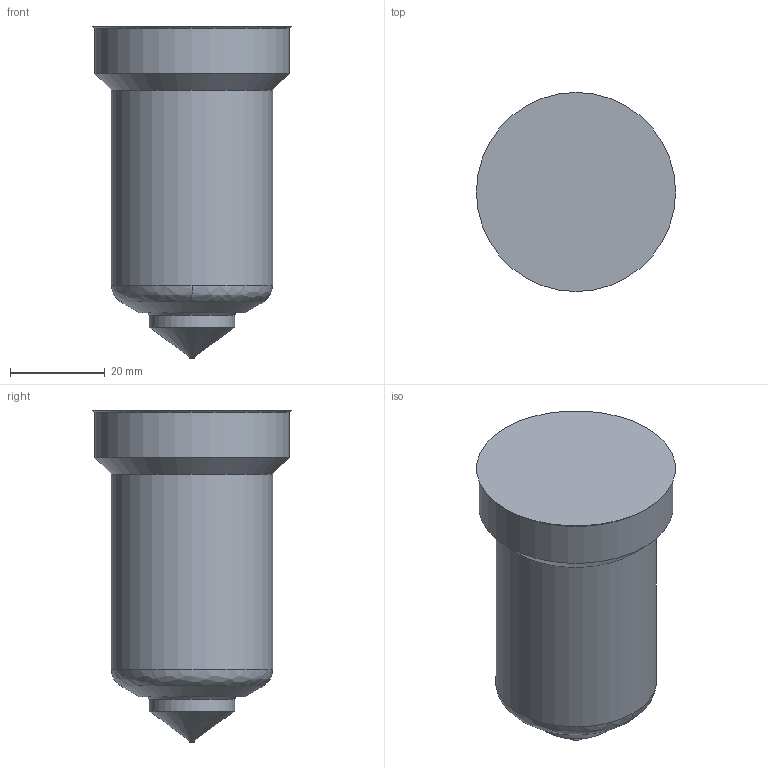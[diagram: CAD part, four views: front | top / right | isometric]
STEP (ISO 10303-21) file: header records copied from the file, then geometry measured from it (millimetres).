
FILE_DESCRIPTION(('STEP AP214'),'1');
FILE_NAME('SEDE FLM7-A.stp','2018-06-12T09:01:18',(' '),(' '),'Spatial InterOp 3D',' ',' ');
FILE_SCHEMA(('AUTOMOTIVE_DESIGN { 1 0 10303 214 1 1 1 1 }'));
Length unit declared in the file: millimetre
Products named in the file (1): 1
Bounding box: 42 x 42 x 70 mm (x, y, z)
Volume: 60035.3 mm3; surface area: 9090.7 mm2
Topology: 1 solids, 1 shells, 14 faces, 27 edges, 16 vertices
Faces by surface type: cone 5, cylinder 4, plane 3, bspline 2
Full cylindrical faces by diameter (mm): 1 x1, 18 x1, 34 x1, 41 x1
Entity records: 447 total; most frequent: CARTESIAN_POINT 75, DIRECTION 58, ORIENTED_EDGE 32, AXIS2_PLACEMENT_3D 29, EDGE_LOOP 24, FACE_OUTER_BOUND 18, EDGE_CURVE 16, CIRCLE 16
